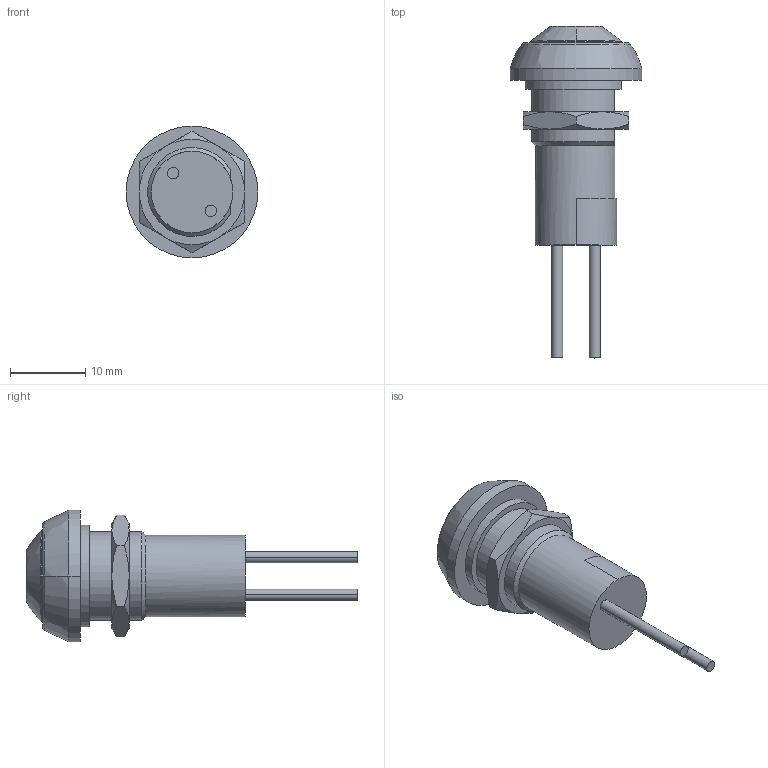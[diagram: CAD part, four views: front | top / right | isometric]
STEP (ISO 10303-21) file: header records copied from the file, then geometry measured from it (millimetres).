
FILE_DESCRIPTION((''),'2;1');
FILE_NAME('IPR1FAD2','2008-10-30T',('francis'),(''),'PRO/ENGINEER BY PARAMETRIC TECHNOLOGY CORPORATION, 2007030','PRO/ENGINEER BY PARAMETRIC TECHNOLOGY CORPORATION, 2007030','');
FILE_SCHEMA(('CONFIG_CONTROL_DESIGN'));
Length unit declared in the file: millimetre
Products named in the file (1): IPR1FAD2
Bounding box: 17.5 x 44.1 x 17.5 mm (x, y, z)
Volume: 3607.3 mm3; surface area: 1829.6 mm2
Topology: 1 solids, 2 shells, 65 faces, 140 edges, 83 vertices
Faces by surface type: plane 21, cylinder 17, cone 13, torus 8, bspline 4, sphere 2
Entity records: 1992 total; most frequent: CARTESIAN_POINT 557, DIRECTION 308, ORIENTED_EDGE 276, EDGE_CURVE 138, AXIS2_PLACEMENT_3D 136, VERTEX_POINT 83, CIRCLE 75, EDGE_LOOP 73
